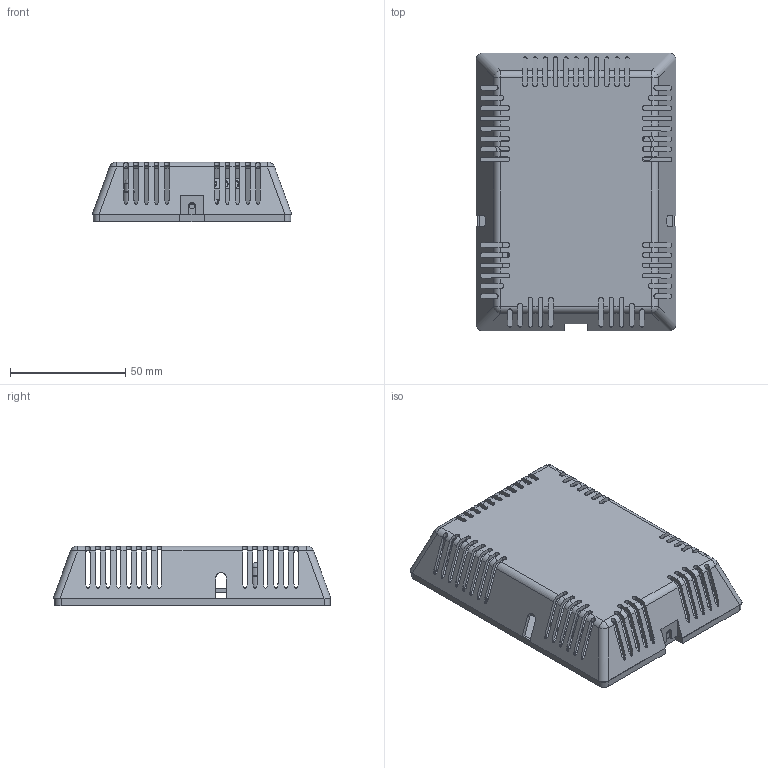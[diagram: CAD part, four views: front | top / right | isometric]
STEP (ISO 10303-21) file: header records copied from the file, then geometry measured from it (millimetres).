
FILE_DESCRIPTION(/* description */ (''),/* implementation_level */ '2;1');
FILE_NAME(/* name */ 'D:\MCS - SERVER ORGANIZATION\Drawings - Mcs Hardware\Boards & Electrical Parts\MCS-ZONE-II\MCS-ZONE-II.stp',/* time_stamp */ '2015-09-29T14:53:38-04:00',/* author */ ('Ian L Mitchell'),/* organization */ (''),/* preprocessor_version */ 'ST-DEVELOPER v15.2',/* originating_system */ 'Autodesk Inventor 2014',/* authorisation */ '');
FILE_SCHEMA (('AUTOMOTIVE_DESIGN { 1 0 10303 214 3 1 1 }'));
Length unit declared in the file: inch
Products named in the file (1): MCS-ZONE-II
Bounding box: 86.74 x 120.65 x 25.91 mm (x, y, z)
Volume: 44334.9 mm3; surface area: 61931.1 mm2
Topology: 14 solids, 14 shells, 712 faces, 2196 edges, 1433 vertices
Faces by surface type: plane 427, cylinder 246, bspline 22, sphere 9, torus 8
Full cylindrical faces by diameter (mm): 1.841 x3, 2.286 x2, 2.54 x4, 2.794 x3, 3.492 x1, 3.493 x3, 3.81 x1, 5.08 x1, 5.537 x3, 12.7 x2
Entity records: 25566 total; most frequent: CARTESIAN_POINT 5694, ORIENTED_EDGE 4294, DIRECTION 4023, EDGE_CURVE 2147, LINE 1539, VECTOR 1539, VERTEX_POINT 1416, AXIS2_PLACEMENT_3D 1242
